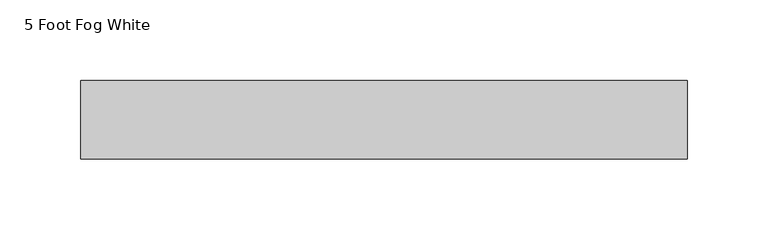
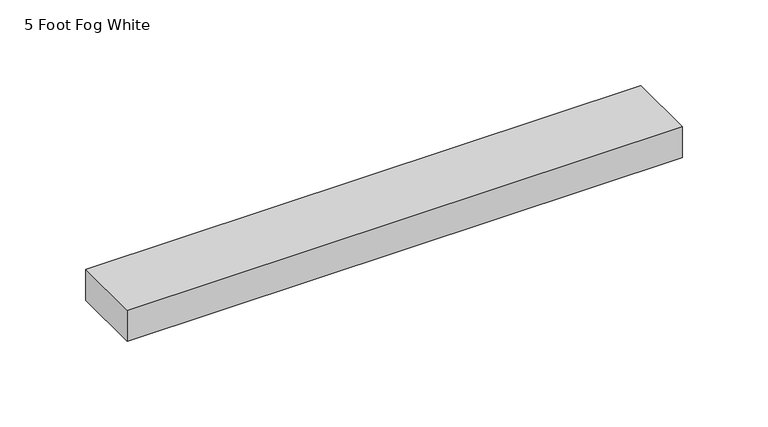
"""IFC4 building model written with IfcOpenShell, lengths in millimetres: proxy geometry, Raceway-2400_Series-Wiremold-Steel : 5 Foot Fog White."""

from ifc_helpers import new_model, si_unit, origin, origin_with_axes, place, context, project, spatial, polyline, outline, extrude, source, transform, mapped, element, save


def proxy_5_foot_fog_white_b289a441(model_context):
    return source(origin(), model_context, "Body", "SweptSolid", [
        extrude(outline(polyline([(374.65, 24.2062), (374.65, -24.2062), (0.0, -24.2062), (0.0, 24.2062), (374.65, 24.2062)])), origin_with_axes(), (0.0, 0.0, 1.0), 22.225),
    ])


if __name__ == "__main__":
    model = new_model("IFC4")
    model_context = context("Model", 3, world=origin())
    ifc_project = project(units=[si_unit("LENGTHUNIT", "METRE", prefix="MILLI")], contexts=[model_context])
    site = spatial("IfcSite", under=ifc_project)
    building = spatial("IfcBuilding", under=site)
    placement = place(None, origin())
    proxy_5_foot_fog_white_shape = proxy_5_foot_fog_white_b289a441(model_context)
    element("IfcBuildingElementProxy", 1, Name="Raceway-2400_Series-Wiremold-Steel : 5 Foot Fog White", ObjectType="Raceway-2400_Series-Wiremold-Steel : 5 Foot Fog White", at=placement, inside=building, context=model_context, shape_type="MappedRepresentation", body=[
        mapped(proxy_5_foot_fog_white_shape, transform((0.0, 0.0, 0.0), x_axis=(1.0, 0.0, 0.0), y_axis=(0.0, 1.0, 0.0), z_axis=(0.0, 0.0, 1.0))),
    ])
    save(model, "model.ifc")
